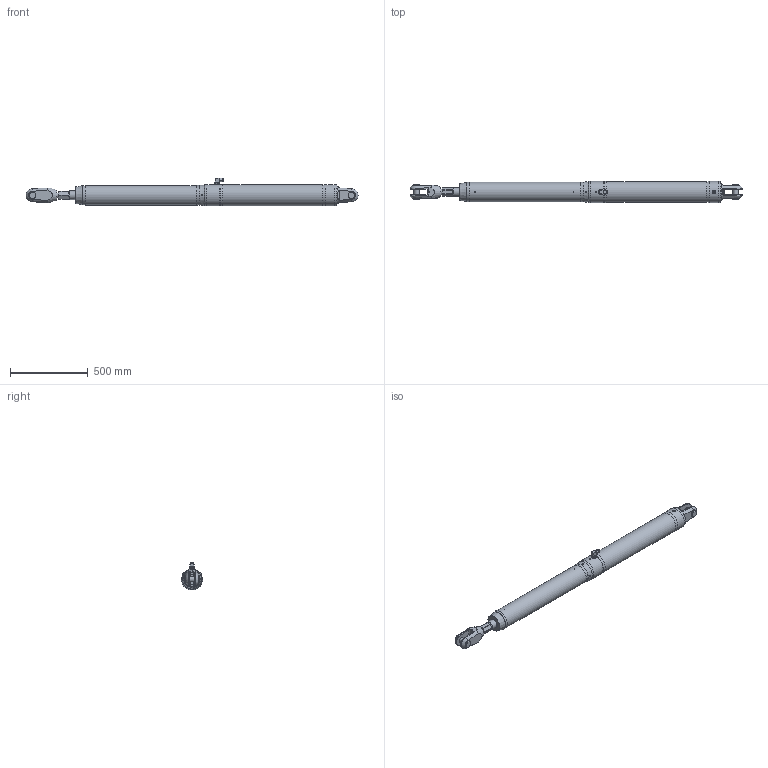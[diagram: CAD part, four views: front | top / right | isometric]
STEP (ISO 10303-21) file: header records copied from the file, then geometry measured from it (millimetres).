
FILE_DESCRIPTION(/* description */ (''),/* implementation_level */ '2;1');
FILE_NAME(/* name */ 'Q:\AA BRAND HYDRAULICS\HYDRAULICS FAMILY DIRECTORY\HYDRAULICS\CYLINDERS\MECHANICAL LOCK RAMS\ALUMINIUM - STAINLESS SINGLE ACTING (-0012 To -0150)\MSA-0091-S0625-NP-71\MSA-0091-S0625-NP-71 (Closed).stp',/* time_stamp */ '2018-04-25T17:12:11+01:00',/* author */ ('Lorena'),/* organization */ (''),/* preprocessor_version */ 'ST-DEVELOPER v17',/* originating_system */ 'Autodesk Inventor 2018',/* authorisation */ '');
FILE_SCHEMA (('AUTOMOTIVE_DESIGN { 1 0 10303 214 3 1 1 }'));
Length unit declared in the file: millimetre
Products named in the file (1): MSA-0091-S0625-NP-71 (Closed)
Bounding box: 2130.08 x 136.4 x 178.3 mm (x, y, z)
Volume: 23913391.9 mm3; surface area: 879266 mm2
Topology: 2 solids, 4 shells, 495 faces, 1298 edges, 848 vertices
Faces by surface type: plane 281, cone 123, cylinder 77, torus 6, sphere 4, bspline 4
Full cylindrical faces by diameter (mm): 4 x1, 4.2 x4, 5 x2, 7 x1, 8 x4, 9 x1, 9.9 x1, 10 x2, 11.1 x1, 18.9 x1, 19 x3, 19.11 x1, 19.9 x1, 20 x3, 20.9 x2, 22 x2, 27.8 x3, 30 x1, 34.25 x1, 34.93 x2, 43.663 x2, 55 x2, 56 x2, 59 x1, 125 x1, 133.4 x1, 136.4 x4
Entity records: 17008 total; most frequent: CARTESIAN_POINT 4416, ORIENTED_EDGE 2580, DIRECTION 2514, EDGE_CURVE 1290, AXIS2_PLACEMENT_3D 966, VERTEX_POINT 849, LINE 582, VECTOR 582
